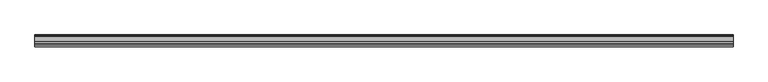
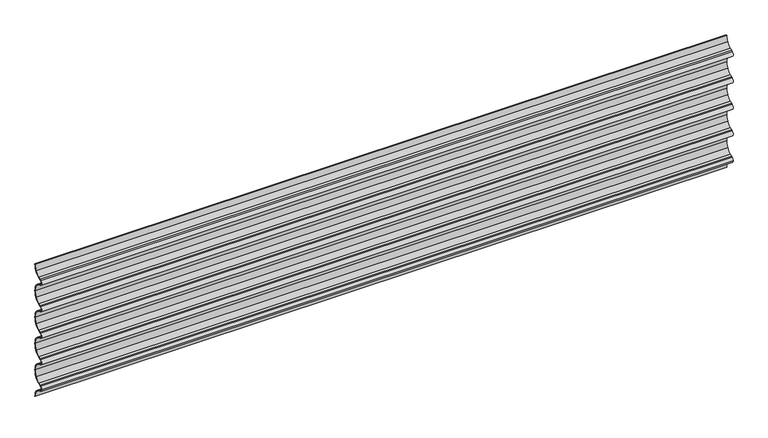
"""IFC4 building model written with IfcOpenShell, lengths in millimetres: plate geometry, Regolare Horizontal 445 : Regolare Horizontal 445."""

from ifc_helpers import new_model, si_unit, point, frame, frame_2d, origin, place, context, project, spatial, polyline, circle_curve, trimmed, segment, composite_curve, outline, extrude, source, transform, mapped, element, save


def plate_e1f37148(model_context):
    return source(origin(), model_context, "Body", "SweptSolid", [
        extrude(outline(composite_curve([segment(trimmed(circle_curve(frame_2d((-32.6206681, 3.5656452)), 30.6166783), [point((-6.5021495, 19.5407501))], [point((-21.2504634, 31.9927351))], True, "CARTESIAN"), True, "CONTINUOUS"), segment(polyline([(-21.2504634, 31.9927351), (-28.4448583, 34.874321), (-31.9093405, 36.5349457)]), True, "CONTINUOUS"), segment(trimmed(circle_curve(frame_2d((-28.0791236, 44.5257445)), 8.8613445), [point((-31.9093405, 36.5349457))], [point((-36.9404682, 44.5257445))], False, "CARTESIAN"), True, "CONTINUOUS"), segment(trimmed(circle_curve(frame_2d((-28.0791236, 44.5257445)), 8.8613445), [point((-36.9404682, 44.5257445))], [point((-31.9093405, 52.5165434))], False, "CARTESIAN"), True, "CONTINUOUS"), segment(polyline([(-31.9093405, 52.5165434), (-28.4448583, 54.1771681), (-21.2504634, 57.058754)]), True, "CONTINUOUS"), segment(trimmed(circle_curve(frame_2d((-32.6206681, 85.4858438)), 30.6166783), [point((-21.2504634, 57.058754))], [point((-6.5021495, 69.5107389))], True, "CARTESIAN"), True, "CONTINUOUS"), segment(trimmed(circle_curve(frame_2d((-38.4503244, 89.0514891)), 37.4503244), [point((-6.5021495, 69.5107389))], [point((-1.0, 89.0514891))], True, "CARTESIAN"), True, "CONTINUOUS"), segment(trimmed(circle_curve(frame_2d((-38.4503244, 89.0514891)), 37.4503244), [point((-1.0, 89.0514891))], [point((-6.5021495, 108.5922392))], True, "CARTESIAN"), True, "CONTINUOUS"), segment(trimmed(circle_curve(frame_2d((-32.6206681, 92.6171343)), 30.6166783), [point((-6.5021495, 108.5922392))], [point((-21.2504634, 121.0442242))], True, "CARTESIAN"), True, "CONTINUOUS"), segment(polyline([(-21.2504634, 121.0442242), (-28.4448583, 123.9258101), (-31.9093405, 125.5864348)]), True, "CONTINUOUS"), segment(trimmed(circle_curve(frame_2d((-28.0791236, 133.5772336)), 8.8613445), [point((-31.9093405, 125.5864348))], [point((-31.9093405, 141.5680324))], False, "CARTESIAN"), True, "CONTINUOUS"), segment(polyline([(-31.9093405, 141.5680324), (-28.4448583, 143.2286572), (-21.2504634, 146.1102431)]), True, "CONTINUOUS"), segment(trimmed(circle_curve(frame_2d((-32.6206681, 174.5373329)), 30.6166783), [point((-21.2504634, 146.1102431))], [point((-6.5021495, 158.562228))], True, "CARTESIAN"), True, "CONTINUOUS"), segment(trimmed(circle_curve(frame_2d((-38.4503244, 178.1029782)), 37.4503244), [point((-6.5021495, 158.562228))], [point((-1.0, 178.1029782))], True, "CARTESIAN"), True, "CONTINUOUS"), segment(trimmed(circle_curve(frame_2d((-38.4503244, 178.1029782)), 37.4503244), [point((-1.0, 178.1029782))], [point((-6.5021495, 197.6437283))], True, "CARTESIAN"), True, "CONTINUOUS"), segment(trimmed(circle_curve(frame_2d((-32.6206681, 181.6686234)), 30.6166783), [point((-6.5021495, 197.6437283))], [point((-21.2504634, 210.0957132))], True, "CARTESIAN"), True, "CONTINUOUS"), segment(polyline([(-21.2504634, 210.0957132), (-28.4448583, 212.9772992), (-31.9093405, 214.6379239)]), True, "CONTINUOUS"), segment(trimmed(circle_curve(frame_2d((-28.0791236, 222.6287227)), 8.8613445), [point((-31.9093405, 214.6379239))], [point((-31.9093405, 230.6195215))], False, "CARTESIAN"), True, "CONTINUOUS"), segment(polyline([(-31.9093405, 230.6195215), (-28.4448583, 232.2801463), (-21.2504634, 235.1617322)]), True, "CONTINUOUS"), segment(trimmed(circle_curve(frame_2d((-32.6206681, 263.588822)), 30.6166783), [point((-21.2504634, 235.1617322))], [point((-6.5021495, 247.6137171))], True, "CARTESIAN"), True, "CONTINUOUS"), segment(trimmed(circle_curve(frame_2d((-38.4503244, 267.1544672)), 37.4503244), [point((-6.5021495, 247.6137171))], [point((-1.0, 267.1544672))], True, "CARTESIAN"), True, "CONTINUOUS"), segment(trimmed(circle_curve(frame_2d((-38.4503244, 267.1544672)), 37.4503244), [point((-1.0, 267.1544672))], [point((-6.5021495, 286.6952174))], True, "CARTESIAN"), True, "CONTINUOUS"), segment(trimmed(circle_curve(frame_2d((-32.6206681, 270.7201125)), 30.6166783), [point((-6.5021495, 286.6952174))], [point((-21.2504634, 299.1472023))], True, "CARTESIAN"), True, "CONTINUOUS"), segment(polyline([(-21.2504634, 299.1472023), (-28.4448583, 302.0287882), (-31.9093405, 303.689413)]), True, "CONTINUOUS"), segment(trimmed(circle_curve(frame_2d((-28.0791236, 311.6802118)), 8.8613445), [point((-31.9093405, 303.689413))], [point((-31.9093405, 319.6710106))], False, "CARTESIAN"), True, "CONTINUOUS"), segment(polyline([(-31.9093405, 319.6710106), (-28.4448583, 321.3316353), (-21.2504634, 324.2132212)]), True, "CONTINUOUS"), segment(trimmed(circle_curve(frame_2d((-32.6206681, 352.6403111)), 30.6166783), [point((-21.2504634, 324.2132212))], [point((-6.5021495, 336.6652062))], True, "CARTESIAN"), True, "CONTINUOUS"), segment(trimmed(circle_curve(frame_2d((-38.4503244, 356.2059563)), 37.4503244), [point((-6.5021495, 336.6652062))], [point((-1.0, 356.2059563))], True, "CARTESIAN"), True, "CONTINUOUS"), segment(trimmed(circle_curve(frame_2d((-38.4503244, 356.2059563)), 37.4503244), [point((-1.0, 356.2059563))], [point((-6.5021495, 375.7467065))], True, "CARTESIAN"), True, "CONTINUOUS"), segment(trimmed(circle_curve(frame_2d((-32.6206681, 359.7716016)), 30.6166783), [point((-6.5021495, 375.7467065))], [point((-21.2504634, 388.1986914))], True, "CARTESIAN"), True, "CONTINUOUS"), segment(polyline([(-21.2504634, 388.1986914), (-28.4448583, 391.0802773), (-31.9093405, 392.740902)]), True, "CONTINUOUS"), segment(trimmed(circle_curve(frame_2d((-28.0791236, 400.7317009)), 8.8613445), [point((-31.9093405, 392.740902))], [point((-31.9093405, 408.7224997))], False, "CARTESIAN"), True, "CONTINUOUS"), segment(polyline([(-31.9093405, 408.7224997), (-28.4448583, 410.3831244), (-21.2504634, 413.2647103)]), True, "CONTINUOUS"), segment(trimmed(circle_curve(frame_2d((-32.6206681, 441.6918002)), 30.6166783), [point((-21.2504634, 413.2647103))], [point((-6.5021495, 425.7166953))], True, "CARTESIAN"), True, "CONTINUOUS"), segment(trimmed(circle_curve(frame_2d((-38.4503244, 445.2574454)), 37.4503244), [point((-6.5021495, 425.7166953))], [point((-1.0, 445.2574454))], True, "CARTESIAN"), True, "CONTINUOUS"), segment(polyline([(-1.0, 445.2574454), (0.0, 445.2574454)]), True, "CONTINUOUS"), segment(trimmed(circle_curve(frame_2d((-38.4503244, 445.2574454)), 38.4503244), [point((0.0, 445.2574454))], [point((-5.6490681, 425.1949174))], False, "CARTESIAN"), True, "CONTINUOUS"), segment(trimmed(circle_curve(frame_2d((-32.6206681, 441.6918002)), 31.6166783), [point((-5.6490681, 425.1949174))], [point((-20.878867, 412.3363159))], False, "CARTESIAN"), True, "CONTINUOUS"), segment(polyline([(-20.878867, 412.3363159), (-28.0423924, 409.4670942), (-31.4771017, 407.8207405)]), True, "CONTINUOUS"), segment(trimmed(circle_curve(frame_2d((-28.0791236, 400.7317009)), 7.8613445), [point((-31.4771017, 407.8207405))], [point((-31.4771017, 393.6426612))], True, "CARTESIAN"), True, "CONTINUOUS"), segment(polyline([(-31.4771017, 393.6426612), (-28.0423924, 391.9963075), (-20.878867, 389.1270858)]), True, "CONTINUOUS"), segment(trimmed(circle_curve(frame_2d((-32.6206681, 359.7716016)), 31.6166783), [point((-20.878867, 389.1270858))], [point((-5.6490681, 376.2684843))], False, "CARTESIAN"), True, "CONTINUOUS"), segment(trimmed(circle_curve(frame_2d((-38.4503244, 356.2059563)), 38.4503244), [point((-5.6490681, 376.2684843))], [point((0.0, 356.2059563))], False, "CARTESIAN"), True, "CONTINUOUS"), segment(trimmed(circle_curve(frame_2d((-38.4503244, 356.2059563)), 38.4503244), [point((0.0, 356.2059563))], [point((-5.6490681, 336.1434283))], False, "CARTESIAN"), True, "CONTINUOUS"), segment(trimmed(circle_curve(frame_2d((-32.6206681, 352.6403111)), 31.6166783), [point((-5.6490681, 336.1434283))], [point((-20.878867, 323.2848269))], False, "CARTESIAN"), True, "CONTINUOUS"), segment(polyline([(-20.878867, 323.2848269), (-28.0423924, 320.4156051), (-31.4771017, 318.7692514)]), True, "CONTINUOUS"), segment(trimmed(circle_curve(frame_2d((-28.0791236, 311.6802118)), 7.8613445), [point((-31.4771017, 318.7692514))], [point((-31.4771017, 304.5911721))], True, "CARTESIAN"), True, "CONTINUOUS"), segment(polyline([(-31.4771017, 304.5911721), (-28.0423924, 302.9448184), (-20.878867, 300.0755967)]), True, "CONTINUOUS"), segment(trimmed(circle_curve(frame_2d((-32.6206681, 270.7201125)), 31.6166783), [point((-20.878867, 300.0755967))], [point((-5.6490681, 287.2169952))], False, "CARTESIAN"), True, "CONTINUOUS"), segment(trimmed(circle_curve(frame_2d((-38.4503244, 267.1544672)), 38.4503244), [point((-5.6490681, 287.2169952))], [point((0.0, 267.1544672))], False, "CARTESIAN"), True, "CONTINUOUS"), segment(trimmed(circle_curve(frame_2d((-38.4503244, 267.1544672)), 38.4503244), [point((0.0, 267.1544672))], [point((-5.6490681, 247.0919392))], False, "CARTESIAN"), True, "CONTINUOUS"), segment(trimmed(circle_curve(frame_2d((-32.6206681, 263.588822)), 31.6166783), [point((-5.6490681, 247.0919392))], [point((-20.878867, 234.2333378))], False, "CARTESIAN"), True, "CONTINUOUS"), segment(polyline([(-20.878867, 234.2333378), (-28.0423924, 231.3641161), (-31.4771017, 229.7177623)]), True, "CONTINUOUS"), segment(trimmed(circle_curve(frame_2d((-28.0791236, 222.6287227)), 7.8613445), [point((-31.4771017, 229.7177623))], [point((-31.4771017, 215.5396831))], True, "CARTESIAN"), True, "CONTINUOUS"), segment(polyline([(-31.4771017, 215.5396831), (-28.0423924, 213.8933293), (-20.878867, 211.0241076)]), True, "CONTINUOUS"), segment(trimmed(circle_curve(frame_2d((-32.6206681, 181.6686234)), 31.6166783), [point((-20.878867, 211.0241076))], [point((-5.6490681, 198.1655062))], False, "CARTESIAN"), True, "CONTINUOUS"), segment(trimmed(circle_curve(frame_2d((-38.4503244, 178.1029782)), 38.4503244), [point((-5.6490681, 198.1655062))], [point((0.0, 178.1029782))], False, "CARTESIAN"), True, "CONTINUOUS"), segment(trimmed(circle_curve(frame_2d((-38.4503244, 178.1029782)), 38.4503244), [point((0.0, 178.1029782))], [point((-5.6490681, 158.0404502))], False, "CARTESIAN"), True, "CONTINUOUS"), segment(trimmed(circle_curve(frame_2d((-32.6206681, 174.5373329)), 31.6166783), [point((-5.6490681, 158.0404502))], [point((-20.878867, 145.1818487))], False, "CARTESIAN"), True, "CONTINUOUS"), segment(polyline([(-20.878867, 145.1818487), (-28.0423924, 142.312627), (-31.4771017, 140.6662733)]), True, "CONTINUOUS"), segment(trimmed(circle_curve(frame_2d((-28.0791236, 133.5772336)), 7.8613445), [point((-31.4771017, 140.6662733))], [point((-31.4771017, 126.488194))], True, "CARTESIAN"), True, "CONTINUOUS"), segment(polyline([(-31.4771017, 126.488194), (-28.0423924, 124.8418403), (-20.878867, 121.9726185)]), True, "CONTINUOUS"), segment(trimmed(circle_curve(frame_2d((-32.6206681, 92.6171343)), 31.6166783), [point((-20.878867, 121.9726185))], [point((-5.6490681, 109.1140171))], False, "CARTESIAN"), True, "CONTINUOUS"), segment(trimmed(circle_curve(frame_2d((-38.4503244, 89.0514891)), 38.4503244), [point((-5.6490681, 109.1140171))], [point((0.0, 89.0514891))], False, "CARTESIAN"), True, "CONTINUOUS"), segment(trimmed(circle_curve(frame_2d((-38.4503244, 89.0514891)), 38.4503244), [point((0.0, 89.0514891))], [point((-5.6490681, 68.9889611))], False, "CARTESIAN"), True, "CONTINUOUS"), segment(trimmed(circle_curve(frame_2d((-32.6206681, 85.4858438)), 31.6166783), [point((-5.6490681, 68.9889611))], [point((-20.878867, 56.1303596))], False, "CARTESIAN"), True, "CONTINUOUS"), segment(polyline([(-20.878867, 56.1303596), (-28.0423924, 53.2611379), (-31.4771017, 51.6147842)]), True, "CONTINUOUS"), segment(trimmed(circle_curve(frame_2d((-28.0791236, 44.5257445)), 7.8613445), [point((-31.4771017, 51.6147842))], [point((-35.9404682, 44.5257445))], True, "CARTESIAN"), True, "CONTINUOUS"), segment(trimmed(circle_curve(frame_2d((-28.0791236, 44.5257445)), 7.8613445), [point((-35.9404682, 44.5257445))], [point((-31.4771017, 37.4367049))], True, "CARTESIAN"), True, "CONTINUOUS"), segment(polyline([(-31.4771017, 37.4367049), (-28.0423924, 35.7903512), (-20.878867, 32.9211295)]), True, "CONTINUOUS"), segment(trimmed(circle_curve(frame_2d((-32.6206681, 3.5656452)), 31.6166783), [point((-20.878867, 32.9211295))], [point((-5.6490681, 20.062528))], False, "CARTESIAN"), True, "CONTINUOUS"), segment(trimmed(circle_curve(frame_2d((-38.4503244, 0.0)), 38.4503244), [point((-5.6490681, 20.062528))], [point((0.0, 0.0))], False, "CARTESIAN"), True, "CONTINUOUS"), segment(polyline([(0.0, 0.0), (-1.0, 0.0)]), True, "CONTINUOUS"), segment(trimmed(circle_curve(frame_2d((-38.4503244, 0.0)), 37.4503244), [point((-1.0, 0.0))], [point((-6.5021495, 19.5407501))], True, "CARTESIAN"), True, "CONTINUOUS")], self_intersect=False)), frame((-1100.0, 0.0, 0.0), z_axis=(1.0, 0.0, 0.0), x_axis=(0.0, 1.0, 0.0)), (0.0, 0.0, 1.0), 2200.0),
    ])


if __name__ == "__main__":
    model = new_model("IFC4")
    model_context = context("Model", 3, world=origin())
    ifc_project = project(units=[si_unit("LENGTHUNIT", "METRE", prefix="MILLI")], contexts=[model_context])
    site = spatial("IfcSite", under=ifc_project)
    building = spatial("IfcBuilding", under=site)
    placement = place(None, origin())
    plate_shape = plate_e1f37148(model_context)
    element("IfcPlate", 1, ObjectType="Regolare Horizontal 445 : Regolare Horizontal 445", at=placement, inside=building, context=model_context, shape_type="MappedRepresentation", body=[
        mapped(plate_shape, transform((0.0, 0.0, 0.0), x_axis=(1.0, 0.0, 0.0), y_axis=(0.0, 1.0, 0.0), z_axis=(0.0, 0.0, 1.0))),
    ])
    save(model, "model.ifc")
